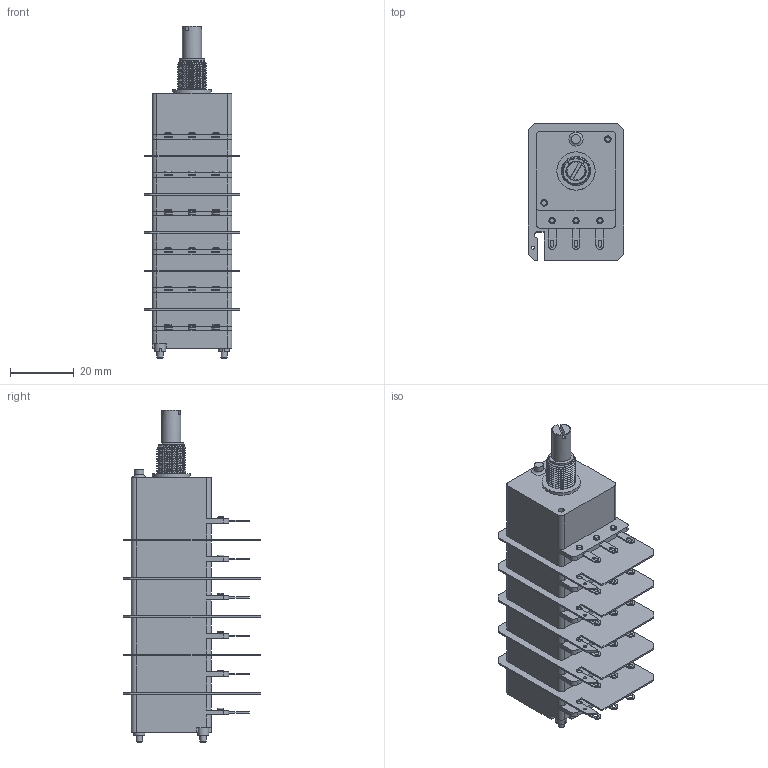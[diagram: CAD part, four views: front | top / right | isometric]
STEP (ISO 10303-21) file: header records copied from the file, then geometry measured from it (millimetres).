
FILE_DESCRIPTION(('FreeCAD Model'),'2;1');
FILE_NAME('Open CASCADE Shape Model','2026-07-15T10:52:48',(''),(''), 'Open CASCADE STEP processor 7.8','FreeCAD','Unknown');
FILE_SCHEMA(('AUTOMOTIVE_DESIGN { 1 0 10303 214 1 1 1 1 }'));
Length unit declared in the file: millimetre
Products named in the file (1): 6CP25XX-S-6S20
Bounding box: 30 x 43 x 104 mm (x, y, z)
Volume: 53041.1 mm3; surface area: 22179.3 mm2
Topology: 1 solids, 46 shells, 696 faces, 1590 edges, 1052 vertices
Faces by surface type: plane 404, cylinder 226, bspline 38, torus 22, cone 6
Full cylindrical faces by diameter (mm): 1 x5, 1.9 x2, 2 x46, 2.2 x32, 2.5 x4, 2.8 x1, 3.5 x2, 4.4 x1, 4.5 x6, 5.4 x1, 6 x1, 6.05 x1, 8 x1, 9 x5, 12 x1
Entity records: 25634 total; most frequent: CARTESIAN_POINT 7719, DIRECTION 3370, ORIENTED_EDGE 3178, EDGE_CURVE 1589, AXIS2_PLACEMENT_3D 1240, VERTEX_POINT 1052, LINE 890, VECTOR 890
